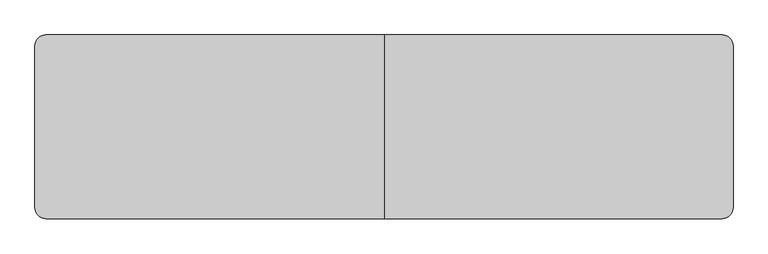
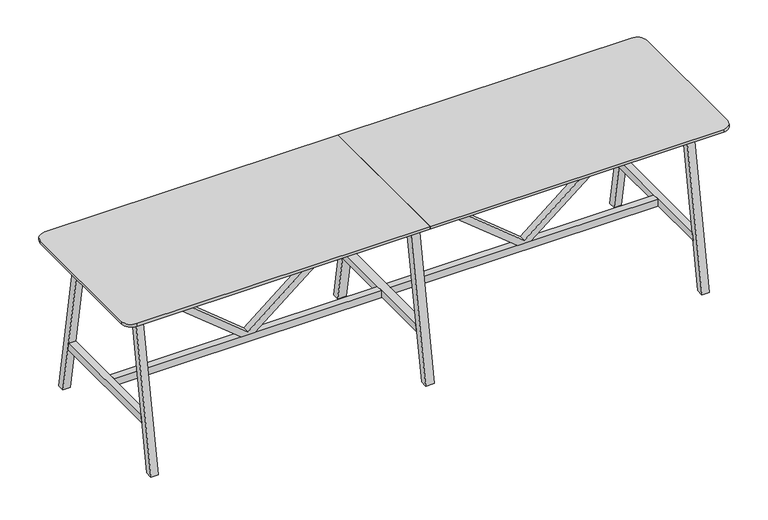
"""IFC4 building model written with IfcOpenShell, lengths in millimetres: furniture geometry, BDG_BossDesign_Tbls_AgentTables6Legs : AGE-HT-6L-3800-1000-3D."""

import ifcopenshell
import ifcopenshell.guid

model = None  # the IFC model being written
_history = None  # IfcOwnerHistory: only IFC2X3 demands one
_inside = {}  # id of a spatial element -> (the spatial element, [elements in it])
_under = {}  # id of a project, library or spatial element -> (it, [spatial elements below it])
_declared = {}  # id of a project -> (the project, [libraries it declares])
_typed = {}  # id of a type object -> (the type object, [elements of that type])
_made_of = {}  # id of a material, layer set ... -> (it, [elements and type objects made of it])


def new_model(schema):
    """Start an empty IFC model of exactly this schema.

    Asked for "IFC4X3", IfcOpenShell would pick the latest addendum, in which some entities
    have other attributes; the version numbers below select the first issue.
    IFC2X3 requires an IfcOwnerHistory on every rooted entity: one is made here for all.
    """
    global model, _history
    if schema == "IFC4X3":
        model = ifcopenshell.file(schema_version=(4, 3, 0, 0))
    else:
        model = ifcopenshell.file(schema=schema)
    _inside.clear()
    _under.clear()
    _declared.clear()
    _typed.clear()
    _made_of.clear()
    _history = None
    if model.schema == "IFC2X3":
        org = make("IfcOrganization", Name="unknown")
        user = make(
            "IfcPersonAndOrganization",
            ThePerson=make("IfcPerson", FamilyName="unknown"),
            TheOrganization=org,
        )
        app = make(
            "IfcApplication",
            ApplicationDeveloper=org,
            Version="unknown",
            ApplicationFullName="unknown",
            ApplicationIdentifier="unknown",
        )
        _history = make(
            "IfcOwnerHistory",
            OwningUser=user,
            OwningApplication=app,
            ChangeAction="ADDED",
            CreationDate=0,
        )
    return model


def make(cls, **values):
    """One entity of the class cls with the attributes given. An attribute that is None is left unset."""
    return model.create_entity(
        cls, **{name: value for name, value in values.items() if value is not None}
    )


def rooted(cls, **values):
    """An entity with a GlobalId (a new one), such as an element, a storey or a relation."""
    return make(cls, GlobalId=ifcopenshell.guid.new(), OwnerHistory=_history, **values)


def si_unit(unit_type, name, prefix=None):
    """IfcSIUnit, for example si_unit("LENGTHUNIT", "METRE", prefix="MILLI")."""
    return make("IfcSIUnit", UnitType=unit_type, Prefix=prefix, Name=name)


def assignment(units):
    """IfcUnitAssignment: the units of a project."""
    return None if units is None else make("IfcUnitAssignment", Units=units)


def point(xyz):
    """IfcCartesianPoint."""
    return None if xyz is None else make("IfcCartesianPoint", Coordinates=xyz)


def direction(xyz):
    """IfcDirection."""
    return None if xyz is None else make("IfcDirection", DirectionRatios=xyz)


def frame(location, z_axis=None, x_axis=None):
    """IfcAxis2Placement3D, a coordinate frame: its origin and axes. An axis left out is left unset."""
    return make(
        "IfcAxis2Placement3D",
        Location=point(location),
        Axis=direction(z_axis),
        RefDirection=direction(x_axis),
    )


def frame_2d(location, x_axis=None):
    """IfcAxis2Placement2D, a coordinate frame in the plane: its origin and x axis."""
    return make(
        "IfcAxis2Placement2D", Location=point(location), RefDirection=direction(x_axis)
    )


def origin():
    """The frame at (0, 0, 0) with its axes left unset."""
    return frame((0.0, 0.0, 0.0))


def place(relative_to, where):
    """IfcLocalPlacement: puts the frame where relative to a parent placement (None: the world)."""
    return make(
        "IfcLocalPlacement", PlacementRelTo=relative_to, RelativePlacement=where
    )


def context(
    kind, dimensions, precision=None, world=None, true_north=None, identifier=None
):
    """IfcGeometricRepresentationContext, for example the 3D "Model" context."""
    return make(
        "IfcGeometricRepresentationContext",
        ContextIdentifier=identifier,
        ContextType=kind,
        CoordinateSpaceDimension=dimensions,
        Precision=precision,
        WorldCoordinateSystem=world,
        TrueNorth=true_north,
    )


def project(units=None, contexts=None):
    """IfcProject with its units and contexts."""
    return rooted(
        "IfcProject",
        Name="project",
        RepresentationContexts=contexts,
        UnitsInContext=assignment(units),
    )


def spatial(cls, under=None, at=None, **own):
    """A site, building, storey or space (cls), placed at a placement, below another one or the project."""
    s = rooted(cls, ObjectPlacement=at, **own)
    if under is not None:
        _under.setdefault(under.id(), (under, []))[1].append(s)
    return s


def polyline(points):
    """IfcPolyline through the points."""
    return make("IfcPolyline", Points=[point(p) for p in points])


def circle_curve(where, radius):
    """IfcCircle in the frame where."""
    return make("IfcCircle", Position=where, Radius=radius)


def trimmed(basis, trim1, trim2, sense, master):
    """IfcTrimmedCurve: the piece of a basis curve between two trims."""
    return make(
        "IfcTrimmedCurve",
        BasisCurve=basis,
        Trim1=trim1,
        Trim2=trim2,
        SenseAgreement=sense,
        MasterRepresentation=master,
    )


def segment(curve, same_sense, transition):
    """IfcCompositeCurveSegment."""
    return make(
        "IfcCompositeCurveSegment",
        Transition=transition,
        SameSense=same_sense,
        ParentCurve=curve,
    )


def composite_curve(segments, self_intersect=None):
    """IfcCompositeCurve: segments joined end to end."""
    return make("IfcCompositeCurve", Segments=segments, SelfIntersect=self_intersect)


def outline(outer, holes=None, kind="AREA"):
    """IfcArbitraryClosedProfileDef: a profile drawn as a closed curve; with holes, ...WithVoids."""
    if holes is None:
        return make("IfcArbitraryClosedProfileDef", ProfileType=kind, OuterCurve=outer)
    return make(
        "IfcArbitraryProfileDefWithVoids",
        ProfileType=kind,
        OuterCurve=outer,
        InnerCurves=holes,
    )


def extrude(swept, where, along, depth):
    """IfcExtrudedAreaSolid: the profile swept, set in the frame where, extruded along a direction by depth."""
    return make(
        "IfcExtrudedAreaSolid",
        SweptArea=swept,
        Position=where,
        ExtrudedDirection=direction(along),
        Depth=depth,
    )


def shape(context_of_items, identifier, shape_type, items):
    """IfcShapeRepresentation: the items that make up one representation, for example the "Body"."""
    return make(
        "IfcShapeRepresentation",
        ContextOfItems=context_of_items,
        RepresentationIdentifier=identifier,
        RepresentationType=shape_type,
        Items=items,
    )


def source(mapping_origin, context_of_items, identifier, shape_type, items):
    """IfcRepresentationMap: a shape defined once, which mapped items show again and again."""
    return make(
        "IfcRepresentationMap",
        MappingOrigin=mapping_origin,
        MappedRepresentation=shape(context_of_items, identifier, shape_type, items),
    )


def transform(
    local_origin,
    x_axis=None,
    y_axis=None,
    z_axis=None,
    scale=None,
    scale2=None,
    scale3=None,
    uniform=True,
):
    """IfcCartesianTransformationOperator3D, or its non-uniform kind. x_axis, y_axis, z_axis: its Axis1, 2, 3."""
    if uniform:
        return make(
            "IfcCartesianTransformationOperator3D",
            Axis1=direction(x_axis),
            Axis2=direction(y_axis),
            LocalOrigin=point(local_origin),
            Scale=scale,
            Axis3=direction(z_axis),
        )
    return make(
        "IfcCartesianTransformationOperator3DnonUniform",
        Axis1=direction(x_axis),
        Axis2=direction(y_axis),
        LocalOrigin=point(local_origin),
        Scale=scale,
        Axis3=direction(z_axis),
        Scale2=scale2,
        Scale3=scale3,
    )


def mapped(mapping_source, mapping_target):
    """IfcMappedItem: shows the shape of a source again, moved by a transform."""
    return make(
        "IfcMappedItem", MappingSource=mapping_source, MappingTarget=mapping_target
    )


def made_of(thing, what):
    """Note that an element or type object is made of a material, layer set ...; save() writes the relation."""
    if what is not None:
        _made_of.setdefault(what.id(), (what, []))[1].append(thing)
    return thing


def element(
    cls,
    number,
    at=None,
    inside=None,
    cuts=None,
    type_object=None,
    material=None,
    context=None,
    identifier="Body",
    shape_type=None,
    held_by="IfcProductDefinitionShape",
    body=None,
    shapes=None,
    **own,
):
    """One element of the class cls, such as IfcWall. Its Tag is "e" and its number.

    at: its placement. inside: the storey or other place that contains it. cuts: it is an
    opening in that element (IfcRelVoidsElement). A single representation is given by context,
    identifier, shape_type and body (its items); several are given by shapes. held_by: the class
    of the entity that holds the representations. save() writes the other relations.
    """
    e = rooted(cls, Tag="e%d" % number, ObjectPlacement=at, **own)
    if body is not None:
        shapes = [shape(context, identifier, shape_type, body)]
    if shapes is not None:
        e.Representation = make(held_by, Representations=shapes)
    if inside is not None:
        _inside.setdefault(inside.id(), (inside, []))[1].append(e)
    if cuts is not None:
        rooted(
            "IfcRelVoidsElement", RelatingBuildingElement=cuts, RelatedOpeningElement=e
        )
    if type_object is not None:
        _typed.setdefault(type_object.id(), (type_object, []))[1].append(e)
    return made_of(e, material)


def aggregate(whole, parts):
    """IfcRelAggregates: a whole, such as a stair, and the parts it consists of."""
    return rooted("IfcRelAggregates", RelatingObject=whole, RelatedObjects=parts)


def save(model, path):
    """Write the relations noted so far, then the file.

    IfcRelAggregates (storeys below a building ...), IfcRelContainedInSpatialStructure (elements
    in a storey), IfcRelDefinesByType, IfcRelAssociatesMaterial and IfcRelDeclares: one each for
    every whole, place, type object, material and project.
    """
    for whole, parts in _under.values():
        aggregate(whole, parts)
    for where, things in _inside.values():
        rooted(
            "IfcRelContainedInSpatialStructure",
            RelatedElements=things,
            RelatingStructure=where,
        )
    for kind, things in _typed.values():
        rooted("IfcRelDefinesByType", RelatedObjects=things, RelatingType=kind)
    for what, things in _made_of.values():
        rooted("IfcRelAssociatesMaterial", RelatedObjects=things, RelatingMaterial=what)
    for by, libraries in _declared.values():
        rooted("IfcRelDeclares", RelatingContext=by, RelatedDefinitions=libraries)
    model.write(path)


def furniture_0616d36a(model_context):
    return source(origin(), model_context, "Body", "SweptSolid", [
        extrude(outline(polyline([(345.0, 824.0823957), (345.0, 908.4176043), (992.0, 1705.0), (1032.0, 1705.0), (1032.0, 1685.0), (365.0, 866.25), (1032.0, 47.5), (1032.0, 27.5), (992.0, 27.5), (345.0, 824.0823957)])), frame((0.0, -22.5000305, 0.0), z_axis=(0.0, 1.0, 0.0), x_axis=(0.0, 0.0, 1.0)), (0.0, 0.0, 1.0), 45.000061),
        extrude(outline(polyline([(345.0, -824.0823957), (992.0, -27.5), (1032.0, -27.5), (1032.0, -47.5), (365.0, -866.25), (1032.0, -1685.0), (1032.0, -1705.0), (992.0, -1705.0), (345.0, -908.4176043), (345.0, -824.0823957)])), frame((0.0, -22.5000305, 0.0), z_axis=(0.0, 1.0, 0.0), x_axis=(0.0, 0.0, 1.0)), (0.0, 0.0, 1.0), 45.000061),
        extrude(outline(polyline([(500.0, 0.0), (454.9999949, 0.0), (285.5, 970.0), (330.5000051, 970.0), (500.0, 0.0)])), frame((-27.5, 0.0, 0.0), z_axis=(1.0, 0.0, 0.0), x_axis=(0.0, 1.0, 0.0)), (0.0, 0.0, 1.0), 55.0),
        extrude(outline(polyline([(-500.0, 0.0), (-330.5000051, 970.0), (-285.5, 970.0), (-454.9999949, 0.0), (-500.0, 0.0)])), frame((-27.5, 0.0, 0.0), z_axis=(1.0, 0.0, 0.0), x_axis=(0.0, 1.0, 0.0)), (0.0, 0.0, 1.0), 55.0),
        extrude(outline(polyline([(402.5773161, 300.0), (-402.5773161, 300.0), (-394.7139143, 345.0), (394.7139143, 345.0), (402.5773161, 300.0)])), frame((-27.5, 0.0, 0.0), z_axis=(1.0, 0.0, 0.0), x_axis=(0.0, 1.0, 0.0)), (0.0, 0.0, 1.0), 55.0),
        extrude(outline(composite_curve([segment(polyline([(0.0, 500.0), (0.0, -500.0), (-1840.0, -500.0)]), True, "CONTINUOUS"), segment(trimmed(circle_curve(frame_2d((-1840.0, -440.0)), 60.0), [point((-1840.0, -500.0))], [point((-1900.0, -440.0))], False, "CARTESIAN"), True, "CONTINUOUS"), segment(polyline([(-1900.0, -440.0), (-1900.0, 440.0)]), True, "CONTINUOUS"), segment(trimmed(circle_curve(frame_2d((-1840.0, 440.0)), 60.0), [point((-1900.0, 440.0))], [point((-1840.0, 500.0))], False, "CARTESIAN"), True, "CONTINUOUS"), segment(polyline([(-1840.0, 500.0), (0.0, 500.0)]), True, "CONTINUOUS")], self_intersect=False)), frame((0.0, 0.0, 1032.0), z_axis=(0.0, 0.0, 1.0), x_axis=(1.0, 0.0, 0.0)), (0.0, 0.0, 1.0), 18.0),
        extrude(outline(polyline([(-394.7139143, 345.0), (394.7139143, 345.0), (402.5773161, 300.0), (-402.5773161, 300.0), (-394.7139143, 345.0)])), frame((1705.0, 0.0, 0.0), z_axis=(1.0, 0.0, 0.0), x_axis=(0.0, 1.0, 0.0)), (0.0, 0.0, 1.0), 45.0),
        extrude(outline(polyline([(500.0, 0.0), (454.9999949, 0.0), (285.5, 970.0), (330.5000051, 970.0), (500.0, 0.0)])), frame((-1750.0, 0.0, 0.0), z_axis=(1.0, 0.0, 0.0), x_axis=(0.0, 1.0, 0.0)), (0.0, 0.0, 1.0), 45.0),
        extrude(outline(polyline([(-500.0, 0.0), (-330.5000051, 970.0), (-285.5, 970.0), (-454.9999949, 0.0), (-500.0, 0.0)])), frame((-1750.0, 0.0, 0.0), z_axis=(1.0, 0.0, 0.0), x_axis=(0.0, 1.0, 0.0)), (0.0, 0.0, 1.0), 45.0),
        extrude(outline(polyline([(-394.7139143, 345.0), (394.7139143, 345.0), (402.5773161, 300.0), (-402.5773161, 300.0), (-394.7139143, 345.0)])), frame((-1750.0, 0.0, 0.0), z_axis=(1.0, 0.0, 0.0), x_axis=(0.0, 1.0, 0.0)), (0.0, 0.0, 1.0), 45.0),
        extrude(outline(polyline([(-326.6006165, 944.973938), (-304.2770691, 1032.0), (-279.5, 1032.0), (-301.8235474, 944.973938), (-326.6006165, 944.973938)])), frame((-1705.0, 0.0, 0.0), z_axis=(1.0, 0.0, 0.0), x_axis=(0.0, 1.0, 0.0)), (0.0, 0.0, 1.0), 3410.0),
        extrude(outline(polyline([(326.6006165, 944.973938), (301.8235474, 944.973938), (279.5, 1032.0), (304.2770691, 1032.0), (326.6006165, 944.973938)])), frame((-1705.0, 0.0, 0.0), z_axis=(1.0, 0.0, 0.0), x_axis=(0.0, 1.0, 0.0)), (0.0, 0.0, 1.0), 3410.0),
        extrude(outline(polyline([(499.7999878, 0.0), (454.7999827, 0.0), (285.5, 970.0), (330.5000051, 970.0), (499.7999878, 0.0)])), frame((1705.0, 0.0, 0.0), z_axis=(1.0, 0.0, 0.0), x_axis=(0.0, 1.0, 0.0)), (0.0, 0.0, 1.0), 45.0),
        extrude(outline(polyline([(-499.7999878, 0.0), (-330.5000051, 970.0), (-285.5, 970.0), (-454.7999827, 0.0), (-499.7999878, 0.0)])), frame((1705.0, 0.0, 0.0), z_axis=(1.0, 0.0, 0.0), x_axis=(0.0, 1.0, 0.0)), (0.0, 0.0, 1.0), 45.0),
        extrude(outline(polyline([(-27.5, 22.5000305), (-27.5, -22.5000305), (-1705.0, -22.5000305), (-1705.0, 22.5000305), (-27.5, 22.5000305)])), frame((0.0, 0.0, 300.0), z_axis=(0.0, 0.0, 1.0), x_axis=(1.0, 0.0, 0.0)), (0.0, 0.0, 1.0), 45.0),
        extrude(outline(polyline([(27.5, -22.5000305), (27.5, 22.5000305), (1705.0, 22.5000305), (1705.0, -22.5000305), (27.5, -22.5000305)])), frame((0.0, 0.0, 300.0), z_axis=(0.0, 0.0, 1.0), x_axis=(1.0, 0.0, 0.0)), (0.0, 0.0, 1.0), 45.0),
        extrude(outline(composite_curve([segment(trimmed(circle_curve(frame_2d((1840.0, 440.0)), 60.0), [point((1840.0, 500.0))], [point((1900.0, 440.0))], False, "CARTESIAN"), True, "CONTINUOUS"), segment(polyline([(1900.0, 440.0), (1900.0, -440.0)]), True, "CONTINUOUS"), segment(trimmed(circle_curve(frame_2d((1840.0, -440.0)), 60.0), [point((1900.0, -440.0))], [point((1840.0, -500.0))], False, "CARTESIAN"), True, "CONTINUOUS"), segment(polyline([(1840.0, -500.0), (0.0, -500.0), (0.0, 500.0), (1840.0, 500.0)]), True, "CONTINUOUS")], self_intersect=False)), frame((0.0, 0.0, 1032.0), z_axis=(0.0, 0.0, 1.0), x_axis=(1.0, 0.0, 0.0)), (0.0, 0.0, 1.0), 18.0),
    ])


if __name__ == "__main__":
    model = new_model("IFC4")
    model_context = context("Model", 3, world=origin())
    ifc_project = project(units=[si_unit("LENGTHUNIT", "METRE", prefix="MILLI")], contexts=[model_context])
    site = spatial("IfcSite", under=ifc_project)
    building = spatial("IfcBuilding", under=site)
    placement = place(None, origin())
    furniture_shape = furniture_0616d36a(model_context)
    element("IfcFurniture", 1, ObjectType="BDG_BossDesign_Tbls_AgentTables6Legs : AGE-HT-6L-3800-1000-3D", at=placement, inside=building, context=model_context, shape_type="MappedRepresentation", body=[
        mapped(furniture_shape, transform((0.0, 0.0, 0.0), x_axis=(1.0, 0.0, 0.0), y_axis=(0.0, 1.0, 0.0), z_axis=(0.0, 0.0, 1.0))),
    ])
    save(model, "model.ifc")
